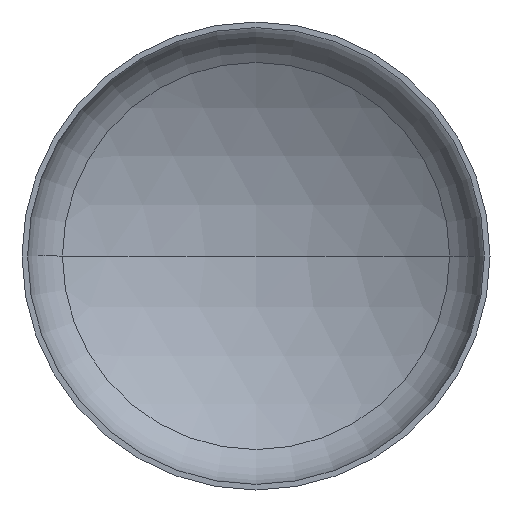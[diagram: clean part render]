
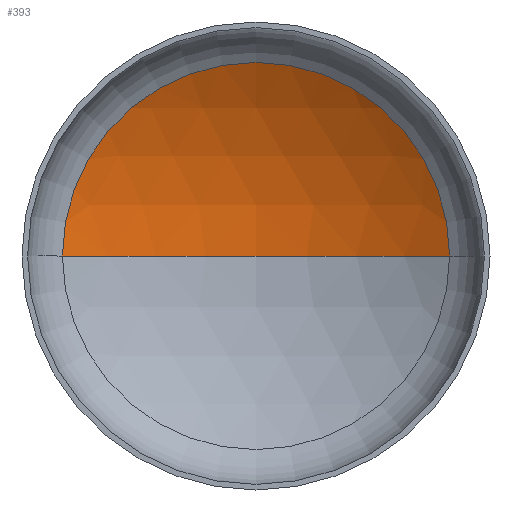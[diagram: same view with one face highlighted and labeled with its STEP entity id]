
A CAD part, front view. The second image highlights one B-rep face of the part: STEP entity #393.
In plain terms, the highlighted spherical face has radius 4000 mm.
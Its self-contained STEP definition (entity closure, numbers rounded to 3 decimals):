
#15 = DIRECTION ( 'NONE',  ( 1., 0., 0. ) ) ;
#18 = VERTEX_POINT ( 'NONE', #204 ) ;
#24 = ORIENTED_EDGE ( 'NONE', *, *, #136, .T. ) ;
#56 = AXIS2_PLACEMENT_3D ( 'NONE', #403, #100, #282 ) ;
#59 = CARTESIAN_POINT ( 'NONE',  ( 0., 1355.222, 0. ) ) ;
#63 = EDGE_LOOP ( 'NONE', ( #145, #24, #139 ) ) ;
#64 = AXIS2_PLACEMENT_3D ( 'NONE', #351, #194, #372 ) ;
#66 = AXIS2_PLACEMENT_3D ( 'NONE', #206, #208, #15 ) ;
#88 = DIRECTION ( 'NONE',  ( 0., 0., -1. ) ) ;
#100 = DIRECTION ( 'NONE',  ( 0., 0., 1. ) ) ;
#101 = VERTEX_POINT ( 'NONE', #244 ) ;
#131 = EDGE_CURVE ( 'NONE', #101, #18, #294, .T. ) ;
#136 = EDGE_CURVE ( 'NONE', #154, #101, #212, .T. ) ;
#138 = EDGE_CURVE ( 'NONE', #154, #18, #391, .T. ) ;
#139 = ORIENTED_EDGE ( 'NONE', *, *, #131, .T. ) ;
#141 = SPHERICAL_SURFACE ( 'NONE', #361, 4000. ) ;
#145 = ORIENTED_EDGE ( 'NONE', *, *, #138, .F. ) ;
#154 = VERTEX_POINT ( 'NONE', #59 ) ;
#168 = CARTESIAN_POINT ( 'NONE',  ( 0., -2644.778, 0. ) ) ;
#171 = DIRECTION ( 'NONE',  ( -1., 0., 0. ) ) ;
#194 = DIRECTION ( 'NONE',  ( 0., 0., -1. ) ) ;
#204 = CARTESIAN_POINT ( 'NONE',  ( -2068.111, 779.096, 0. ) ) ;
#206 = CARTESIAN_POINT ( 'NONE',  ( 0., 779.096, 0. ) ) ;
#208 = DIRECTION ( 'NONE',  ( 0., -1., 0. ) ) ;
#212 = CIRCLE ( 'NONE', #64, 4000. ) ;
#244 = CARTESIAN_POINT ( 'NONE',  ( 2068.111, 779.096, 0. ) ) ;
#282 = DIRECTION ( 'NONE',  ( 1., 0., 0. ) ) ;
#294 = CIRCLE ( 'NONE', #66, 2068.111 ) ;
#351 = CARTESIAN_POINT ( 'NONE',  ( 0., -2644.778, 0. ) ) ;
#361 = AXIS2_PLACEMENT_3D ( 'NONE', #168, #88, #171 ) ;
#365 = FACE_OUTER_BOUND ( 'NONE', #63, .T. ) ;
#372 = DIRECTION ( 'NONE',  ( -1., 0., 0. ) ) ;
#391 = CIRCLE ( 'NONE', #56, 4000. ) ;
#393 = ADVANCED_FACE ( 'NONE', ( #365 ), #141, .F. ) ;
#403 = CARTESIAN_POINT ( 'NONE',  ( 0., -2644.778, 0. ) ) ;
